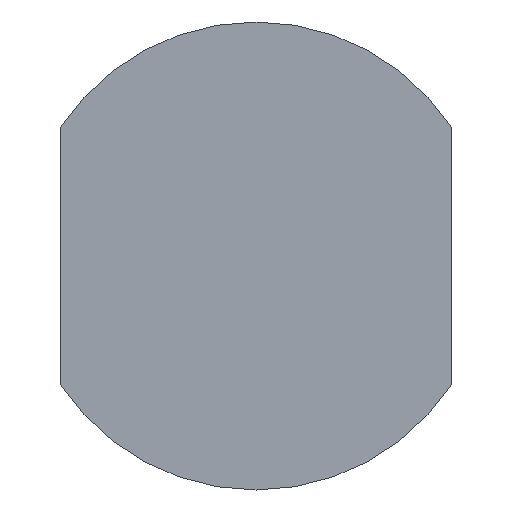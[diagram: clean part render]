
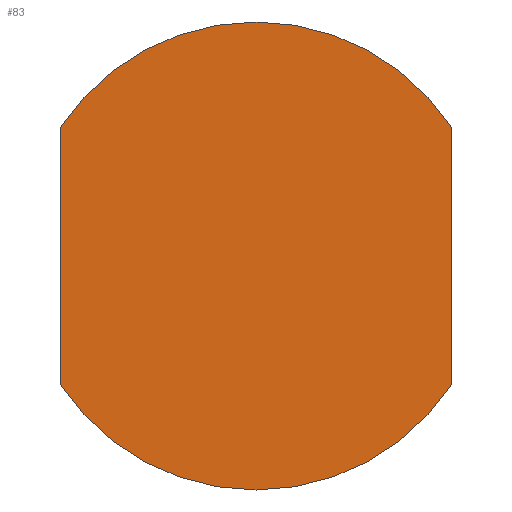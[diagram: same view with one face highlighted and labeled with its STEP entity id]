
A CAD part, front view. The second image highlights one B-rep face of the part: STEP entity #83.
In plain terms, the highlighted planar face has unit normal (0, -1, 0).
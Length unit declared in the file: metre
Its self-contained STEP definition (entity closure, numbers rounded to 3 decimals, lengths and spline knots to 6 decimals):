
#14 = VERTEX_POINT ( 'NONE', #226 ) ;
#19 = CARTESIAN_POINT ( 'NONE',  ( 0., 0., 0. ) ) ;
#24 = CARTESIAN_POINT ( 'NONE',  ( 0.0435, 0., -0.028491 ) ) ;
#28 = LINE ( 'NONE', #24, #198 ) ;
#29 = EDGE_LOOP ( 'NONE', ( #103, #89, #126, #143, #94 ) ) ;
#37 = DIRECTION ( 'NONE',  ( 0., 0., -1. ) ) ;
#39 = CIRCLE ( 'NONE', #128, 0.052 ) ;
#42 = DIRECTION ( 'NONE',  ( 0., 1., 0. ) ) ;
#59 = CARTESIAN_POINT ( 'NONE',  ( 0., 0., 0. ) ) ;
#60 = DIRECTION ( 'NONE',  ( 0., 0., -1. ) ) ;
#63 = EDGE_CURVE ( 'NONE', #178, #81, #64, .T. ) ;
#64 = LINE ( 'NONE', #152, #106 ) ;
#67 = DIRECTION ( 'NONE',  ( 0., 0., 1. ) ) ;
#69 = EDGE_CURVE ( 'NONE', #178, #14, #204, .T. ) ;
#70 = DIRECTION ( 'NONE',  ( 0., 0., -1. ) ) ;
#79 = AXIS2_PLACEMENT_3D ( 'NONE', #19, #183, #91 ) ;
#81 = VERTEX_POINT ( 'NONE', #169 ) ;
#83 = ADVANCED_FACE ( 'NONE', ( #151 ), #86, .F. ) ;
#86 = PLANE ( 'NONE',  #109 ) ;
#89 = ORIENTED_EDGE ( 'NONE', *, *, #223, .F. ) ;
#91 = DIRECTION ( 'NONE',  ( 0., 0., -1. ) ) ;
#94 = ORIENTED_EDGE ( 'NONE', *, *, #69, .F. ) ;
#103 = ORIENTED_EDGE ( 'NONE', *, *, #63, .T. ) ;
#106 = VECTOR ( 'NONE', #70, 1. ) ;
#109 = AXIS2_PLACEMENT_3D ( 'NONE', #150, #155, #67 ) ;
#121 = VERTEX_POINT ( 'NONE', #224 ) ;
#126 = ORIENTED_EDGE ( 'NONE', *, *, #149, .F. ) ;
#128 = AXIS2_PLACEMENT_3D ( 'NONE', #59, #157, #37 ) ;
#133 = CARTESIAN_POINT ( 'NONE',  ( 0.0435, 0., -0.028491 ) ) ;
#136 = DIRECTION ( 'NONE',  ( 0., 0., 1. ) ) ;
#143 = ORIENTED_EDGE ( 'NONE', *, *, #217, .T. ) ;
#149 = EDGE_CURVE ( 'NONE', #233, #121, #39, .T. ) ;
#150 = CARTESIAN_POINT ( 'NONE',  ( 0., 0., 0. ) ) ;
#151 = FACE_OUTER_BOUND ( 'NONE', #29, .T. ) ;
#152 = CARTESIAN_POINT ( 'NONE',  ( -0.0435, 0., -0.028491 ) ) ;
#155 = DIRECTION ( 'NONE',  ( 0., 1., 0. ) ) ;
#157 = DIRECTION ( 'NONE',  ( 0., 1., 0. ) ) ;
#169 = CARTESIAN_POINT ( 'NONE',  ( -0.0435, 0., -0.028491 ) ) ;
#173 = CARTESIAN_POINT ( 'NONE',  ( 0., 0., 0. ) ) ;
#178 = VERTEX_POINT ( 'NONE', #212 ) ;
#183 = DIRECTION ( 'NONE',  ( 0., 1., 0. ) ) ;
#194 = CIRCLE ( 'NONE', #215, 0.052 ) ;
#198 = VECTOR ( 'NONE', #136, 1. ) ;
#204 = CIRCLE ( 'NONE', #79, 0.052 ) ;
#212 = CARTESIAN_POINT ( 'NONE',  ( -0.0435, 0., 0.028491 ) ) ;
#215 = AXIS2_PLACEMENT_3D ( 'NONE', #173, #42, #60 ) ;
#217 = EDGE_CURVE ( 'NONE', #233, #14, #28, .T. ) ;
#223 = EDGE_CURVE ( 'NONE', #121, #81, #194, .T. ) ;
#224 = CARTESIAN_POINT ( 'NONE',  ( 0., 0., -0.052 ) ) ;
#226 = CARTESIAN_POINT ( 'NONE',  ( 0.0435, 0., 0.028491 ) ) ;
#233 = VERTEX_POINT ( 'NONE', #133 ) ;
